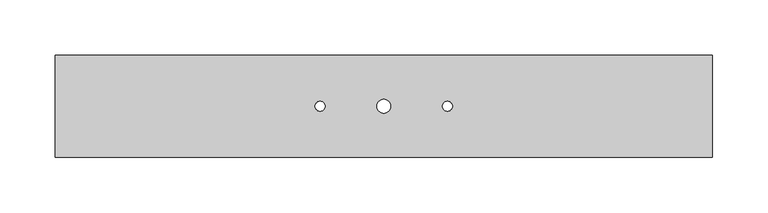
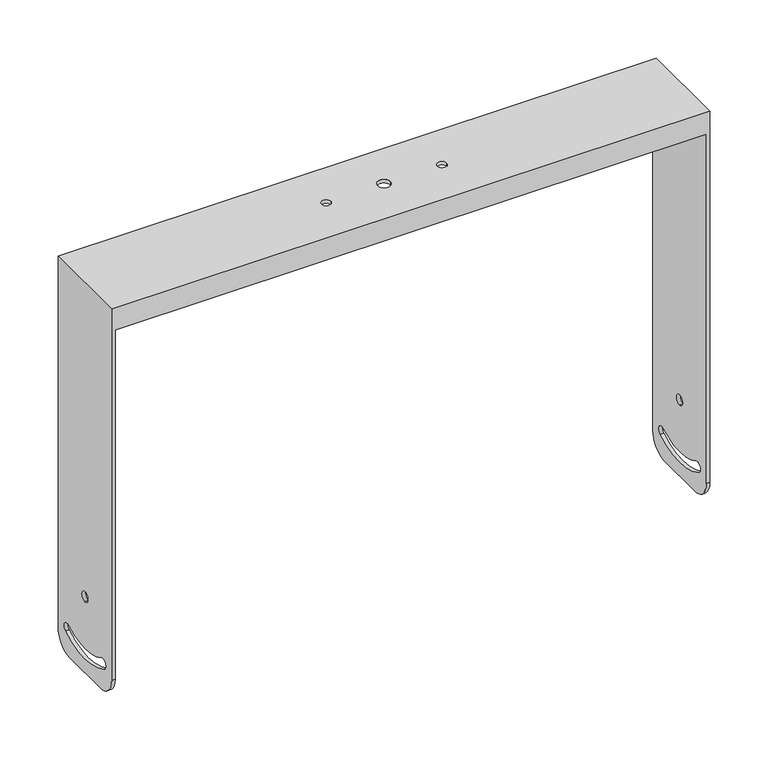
"""IFC4 building model written with IfcOpenShell, lengths in millimetres: proxy geometry, d&b xS-Series 18 l 27S Sub Horizontal Bracket : 18S l 27S Sub Horizontal Bracket."""

import ifcopenshell
import ifcopenshell.guid

model = None  # the IFC model being written
_history = None  # IfcOwnerHistory: only IFC2X3 demands one
_inside = {}  # id of a spatial element -> (the spatial element, [elements in it])
_under = {}  # id of a project, library or spatial element -> (it, [spatial elements below it])
_declared = {}  # id of a project -> (the project, [libraries it declares])
_typed = {}  # id of a type object -> (the type object, [elements of that type])
_made_of = {}  # id of a material, layer set ... -> (it, [elements and type objects made of it])


def new_model(schema):
    """Start an empty IFC model of exactly this schema.

    Asked for "IFC4X3", IfcOpenShell would pick the latest addendum, in which some entities
    have other attributes; the version numbers below select the first issue.
    IFC2X3 requires an IfcOwnerHistory on every rooted entity: one is made here for all.
    """
    global model, _history
    if schema == "IFC4X3":
        model = ifcopenshell.file(schema_version=(4, 3, 0, 0))
    else:
        model = ifcopenshell.file(schema=schema)
    _inside.clear()
    _under.clear()
    _declared.clear()
    _typed.clear()
    _made_of.clear()
    _history = None
    if model.schema == "IFC2X3":
        org = make("IfcOrganization", Name="unknown")
        user = make(
            "IfcPersonAndOrganization",
            ThePerson=make("IfcPerson", FamilyName="unknown"),
            TheOrganization=org,
        )
        app = make(
            "IfcApplication",
            ApplicationDeveloper=org,
            Version="unknown",
            ApplicationFullName="unknown",
            ApplicationIdentifier="unknown",
        )
        _history = make(
            "IfcOwnerHistory",
            OwningUser=user,
            OwningApplication=app,
            ChangeAction="ADDED",
            CreationDate=0,
        )
    return model


def make(cls, **values):
    """One entity of the class cls with the attributes given. An attribute that is None is left unset."""
    return model.create_entity(
        cls, **{name: value for name, value in values.items() if value is not None}
    )


def rooted(cls, **values):
    """An entity with a GlobalId (a new one), such as an element, a storey or a relation."""
    return make(cls, GlobalId=ifcopenshell.guid.new(), OwnerHistory=_history, **values)


def si_unit(unit_type, name, prefix=None):
    """IfcSIUnit, for example si_unit("LENGTHUNIT", "METRE", prefix="MILLI")."""
    return make("IfcSIUnit", UnitType=unit_type, Prefix=prefix, Name=name)


def assignment(units):
    """IfcUnitAssignment: the units of a project."""
    return None if units is None else make("IfcUnitAssignment", Units=units)


def point(xyz):
    """IfcCartesianPoint."""
    return None if xyz is None else make("IfcCartesianPoint", Coordinates=xyz)


def direction(xyz):
    """IfcDirection."""
    return None if xyz is None else make("IfcDirection", DirectionRatios=xyz)


def frame(location, z_axis=None, x_axis=None):
    """IfcAxis2Placement3D, a coordinate frame: its origin and axes. An axis left out is left unset."""
    return make(
        "IfcAxis2Placement3D",
        Location=point(location),
        Axis=direction(z_axis),
        RefDirection=direction(x_axis),
    )


def origin():
    """The frame at (0, 0, 0) with its axes left unset."""
    return frame((0.0, 0.0, 0.0))


def place(relative_to, where):
    """IfcLocalPlacement: puts the frame where relative to a parent placement (None: the world)."""
    return make(
        "IfcLocalPlacement", PlacementRelTo=relative_to, RelativePlacement=where
    )


def context(
    kind, dimensions, precision=None, world=None, true_north=None, identifier=None
):
    """IfcGeometricRepresentationContext, for example the 3D "Model" context."""
    return make(
        "IfcGeometricRepresentationContext",
        ContextIdentifier=identifier,
        ContextType=kind,
        CoordinateSpaceDimension=dimensions,
        Precision=precision,
        WorldCoordinateSystem=world,
        TrueNorth=true_north,
    )


def project(units=None, contexts=None):
    """IfcProject with its units and contexts."""
    return rooted(
        "IfcProject",
        Name="project",
        RepresentationContexts=contexts,
        UnitsInContext=assignment(units),
    )


def spatial(cls, under=None, at=None, **own):
    """A site, building, storey or space (cls), placed at a placement, below another one or the project."""
    s = rooted(cls, ObjectPlacement=at, **own)
    if under is not None:
        _under.setdefault(under.id(), (under, []))[1].append(s)
    return s


def polyline(points):
    """IfcPolyline through the points."""
    return make("IfcPolyline", Points=[point(p) for p in points])


def circle_curve(where, radius):
    """IfcCircle in the frame where."""
    return make("IfcCircle", Position=where, Radius=radius)


def shape(context_of_items, identifier, shape_type, items):
    """IfcShapeRepresentation: the items that make up one representation, for example the "Body"."""
    return make(
        "IfcShapeRepresentation",
        ContextOfItems=context_of_items,
        RepresentationIdentifier=identifier,
        RepresentationType=shape_type,
        Items=items,
    )


def source(mapping_origin, context_of_items, identifier, shape_type, items):
    """IfcRepresentationMap: a shape defined once, which mapped items show again and again."""
    return make(
        "IfcRepresentationMap",
        MappingOrigin=mapping_origin,
        MappedRepresentation=shape(context_of_items, identifier, shape_type, items),
    )


def transform(
    local_origin,
    x_axis=None,
    y_axis=None,
    z_axis=None,
    scale=None,
    scale2=None,
    scale3=None,
    uniform=True,
):
    """IfcCartesianTransformationOperator3D, or its non-uniform kind. x_axis, y_axis, z_axis: its Axis1, 2, 3."""
    if uniform:
        return make(
            "IfcCartesianTransformationOperator3D",
            Axis1=direction(x_axis),
            Axis2=direction(y_axis),
            LocalOrigin=point(local_origin),
            Scale=scale,
            Axis3=direction(z_axis),
        )
    return make(
        "IfcCartesianTransformationOperator3DnonUniform",
        Axis1=direction(x_axis),
        Axis2=direction(y_axis),
        LocalOrigin=point(local_origin),
        Scale=scale,
        Axis3=direction(z_axis),
        Scale2=scale2,
        Scale3=scale3,
    )


def mapped(mapping_source, mapping_target):
    """IfcMappedItem: shows the shape of a source again, moved by a transform."""
    return make(
        "IfcMappedItem", MappingSource=mapping_source, MappingTarget=mapping_target
    )


def made_of(thing, what):
    """Note that an element or type object is made of a material, layer set ...; save() writes the relation."""
    if what is not None:
        _made_of.setdefault(what.id(), (what, []))[1].append(thing)
    return thing


def element(
    cls,
    number,
    at=None,
    inside=None,
    cuts=None,
    type_object=None,
    material=None,
    context=None,
    identifier="Body",
    shape_type=None,
    held_by="IfcProductDefinitionShape",
    body=None,
    shapes=None,
    **own,
):
    """One element of the class cls, such as IfcWall. Its Tag is "e" and its number.

    at: its placement. inside: the storey or other place that contains it. cuts: it is an
    opening in that element (IfcRelVoidsElement). A single representation is given by context,
    identifier, shape_type and body (its items); several are given by shapes. held_by: the class
    of the entity that holds the representations. save() writes the other relations.
    """
    e = rooted(cls, Tag="e%d" % number, ObjectPlacement=at, **own)
    if body is not None:
        shapes = [shape(context, identifier, shape_type, body)]
    if shapes is not None:
        e.Representation = make(held_by, Representations=shapes)
    if inside is not None:
        _inside.setdefault(inside.id(), (inside, []))[1].append(e)
    if cuts is not None:
        rooted(
            "IfcRelVoidsElement", RelatingBuildingElement=cuts, RelatedOpeningElement=e
        )
    if type_object is not None:
        _typed.setdefault(type_object.id(), (type_object, []))[1].append(e)
    return made_of(e, material)


def aggregate(whole, parts):
    """IfcRelAggregates: a whole, such as a stair, and the parts it consists of."""
    return rooted("IfcRelAggregates", RelatingObject=whole, RelatedObjects=parts)


def save(model, path):
    """Write the relations noted so far, then the file.

    IfcRelAggregates (storeys below a building ...), IfcRelContainedInSpatialStructure (elements
    in a storey), IfcRelDefinesByType, IfcRelAssociatesMaterial and IfcRelDeclares: one each for
    every whole, place, type object, material and project.
    """
    for whole, parts in _under.values():
        aggregate(whole, parts)
    for where, things in _inside.values():
        rooted(
            "IfcRelContainedInSpatialStructure",
            RelatedElements=things,
            RelatingStructure=where,
        )
    for kind, things in _typed.values():
        rooted("IfcRelDefinesByType", RelatedObjects=things, RelatingType=kind)
    for what, things in _made_of.values():
        rooted("IfcRelAssociatesMaterial", RelatedObjects=things, RelatingMaterial=what)
    for by, libraries in _declared.values():
        rooted("IfcRelDeclares", RelatingContext=by, RelatedDefinitions=libraries)
    model.write(path)


def plane_surface(at):
    """IfcPlane: the flat surface through the origin of the frame at, square to its z axis."""
    return make("IfcPlane", Position=at)


def cylinder_surface(at, radius):
    """IfcCylindricalSurface: all points at the distance radius from the z axis of the frame at."""
    return make("IfcCylindricalSurface", Position=at, Radius=radius)


def revolved_surface(curve, axis_point, axis_direction):
    """IfcSurfaceOfRevolution: the curve turned about the line through axis_point along axis_direction."""
    return make(
        "IfcSurfaceOfRevolution",
        SweptCurve=make("IfcArbitraryOpenProfileDef", ProfileType="CURVE", Curve=curve),
        AxisPosition=make("IfcAxis1Placement", Location=point(axis_point), Axis=direction(axis_direction)),
    )


def advanced_brep(points, edges, surfaces, faces):
    """IfcAdvancedBrep: a solid bounded by faces that lie on surfaces and meet in shared edges.

    An edge is (start, end): straight between two places in points (the first is 0);
    or (start, end, curve); or (start, end, curve, False) where it runs against its curve.
    A face is (place in surfaces, loops), or (place, loops, False) where it looks against
    its surface's normal. A loop lists edges by number (the first is 1), with a minus sign
    where the edge is run from its end to its start. The first loop is the outer one.
    """
    corners = [point(p) for p in points]
    vertices = [make("IfcVertexPoint", VertexGeometry=c) for c in corners]
    made = []
    for start, end, *more in edges:
        made.append(
            make(
                "IfcEdgeCurve",
                EdgeStart=vertices[start],
                EdgeEnd=vertices[end],
                EdgeGeometry=more[0] if more else make("IfcPolyline", Points=[corners[start], corners[end]]),
                SameSense=more[1] if len(more) > 1 else True,
            )
        )
    hull = []
    for where, loops, *sense in faces:
        bounds = []
        for j, loop in enumerate(loops):
            ring = [make("IfcOrientedEdge", EdgeElement=made[abs(k) - 1], Orientation=k > 0) for k in loop]
            bounds.append(
                make(
                    "IfcFaceOuterBound" if j == 0 else "IfcFaceBound",
                    Bound=make("IfcEdgeLoop", EdgeList=ring),
                    Orientation=True,
                )
            )
        hull.append(make("IfcAdvancedFace", Bounds=bounds, FaceSurface=surfaces[where], SameSense=sense[0] if sense else True))
    return make("IfcAdvancedBrep", Outer=make("IfcClosedShell", CfsFaces=hull))


def communication_devices_358104d0(model_context):
    return source(origin(), model_context, "Body", "AdvancedBrep", [
        advanced_brep(
        [(-293.5, -48.1597025, -75.0665911), (-293.5, -28.1597025, -55.0665911), (-293.5, -28.1597025, 311.9334089), (-293.5, -31.1597025, 311.9334089), (-293.5, -31.1597025, 331.4334089), (-293.5, -117.1597025, 331.4334089), (-293.5, -117.1597025, 311.9334089), (-293.5, -120.1597025, 311.9334089), (-293.5, -120.1597025, -55.0665911), (-293.5, -100.1597025, -75.0665911), (-293.5, -74.1597025, -0.2665911), (-293.5, -74.1597025, 10.1334089), (-293.5, -101.9713212, -42.2167829), (-293.5, -46.3480839, -42.2167829), (-293.5, -41.0292815, -51.1538037), (-293.5, -107.2901235, -51.1538037), (-297.0, -48.1597025, -75.0665911), (-297.0, -100.1597025, -75.0665911), (-297.0, -120.1597025, -55.0665911), (-297.0, -120.1597025, 334.9334089), (-297.0, -28.1597025, 334.9334089), (-297.0, -28.1597025, -55.0665911), (-297.0, -74.1597025, -0.2665911), (-297.0, -74.1597025, 10.1334089), (-297.0, -101.9713212, -42.2167829), (-297.0, -107.2901235, -51.1538037), (-297.0, -41.0292815, -51.1538037), (-297.0, -46.3480839, -42.2167829), (297.0, -28.1597025, 334.9334089), (297.0, -28.1597025, -55.0665911), (293.5, -28.1597025, -55.0665911), (293.5, -28.1597025, 311.9334089), (293.5, -120.1597025, 311.9334089), (293.5, -120.1597025, -55.0665911), (297.0, -120.1597025, -55.0665911), (297.0, -120.1597025, 334.9334089), (293.5, -31.1597025, 311.9334089), (293.5, -31.1597025, 331.4334089), (293.5, -117.1597025, 311.9334089), (293.5, -117.1597025, 331.4334089), (293.5, -48.1597025, -75.0665911), (293.5, -100.1597025, -75.0665911), (293.5, -74.1597025, -0.2665911), (293.5, -74.1597025, 10.1334089), (293.5, -101.9713212, -42.2167829), (293.5, -107.2901235, -51.1538037), (293.5, -41.0292815, -51.1538037), (293.5, -46.3480839, -42.2167829), (297.0, -48.1597025, -75.0665911), (297.0, -100.1597025, -75.0665911), (297.0, -74.1597025, 10.1334089), (297.0, -74.1597025, -0.2665911), (297.0, -46.3480839, -42.2167829), (297.0, -101.9713212, -42.2167829), (297.0, -41.0292815, -51.1538037), (297.0, -107.2901235, -51.1538037), (-6.25, -74.1597025, 334.9334089), (6.25, -74.1597025, 334.9334089), (-62.0, -74.1597025, 334.9334089), (-53.0, -74.1597025, 334.9334089), (53.0, -74.1597025, 334.9334089), (62.0, -74.1597025, 334.9334089), (-6.25, -74.1597025, 331.4334089), (6.25, -74.1597025, 331.4334089), (-62.0, -74.1597025, 331.4334089), (-53.0, -74.1597025, 331.4334089), (53.0, -74.1597025, 331.4334089), (62.0, -74.1597025, 331.4334089)],
        [
            (0, 1, circle_curve(frame((-293.5, -48.1597025, -55.0665911), z_axis=(1.0, 0.0, 0.0), x_axis=(0.0, 0.0, 1.0)), 20.0)),
            (1, 2),
            (2, 3),
            (3, 4),
            (4, 5),
            (5, 6),
            (6, 7),
            (7, 8),
            (8, 9, circle_curve(frame((-293.5, -100.1597025, -55.0665911), z_axis=(1.0, 0.0, 0.0), x_axis=(0.0, 0.0, 1.0)), 20.0)),
            (9, 0),
            (10, 11, circle_curve(frame((-293.5, -74.1597025, 4.9334089), z_axis=(-1.0, 0.0, 0.0), x_axis=(0.0, 0.0, 1.0)), 5.2)),
            (11, 10, circle_curve(frame((-293.5, -74.1597025, 4.9334089), z_axis=(-1.0, 0.0, 0.0), x_axis=(0.0, 0.0, 1.0)), 5.2)),
            (12, 13, circle_curve(frame((-293.5, -74.1597025, 4.5142293), z_axis=(1.0, 0.0, 0.0), x_axis=(0.0, 0.0, 1.0)), 54.3808204)),
            (13, 14, circle_curve(frame((-293.5, -43.6886827, -46.6852933), z_axis=(-1.0, 0.0, 0.0), x_axis=(0.0, 0.0, 1.0)), 5.2)),
            (14, 15, circle_curve(frame((-293.5, -74.1597025, 4.5142293), z_axis=(-1.0, 0.0, 0.0), x_axis=(0.0, 0.0, 1.0)), 64.7808204)),
            (15, 12, circle_curve(frame((-293.5, -104.6307223, -46.6852933), z_axis=(-1.0, 0.0, 0.0), x_axis=(0.0, 0.0, 1.0)), 5.2)),
            (16, 17),
            (17, 18, circle_curve(frame((-297.0, -100.1597025, -55.0665911), z_axis=(-1.0, 0.0, 0.0), x_axis=(0.0, 0.0, 1.0)), 20.0)),
            (18, 19),
            (19, 20),
            (20, 21),
            (21, 16, circle_curve(frame((-297.0, -48.1597025, -55.0665911), z_axis=(-1.0, 0.0, 0.0), x_axis=(0.0, 0.0, 1.0)), 20.0)),
            (22, 23, circle_curve(frame((-297.0, -74.1597025, 4.9334089), z_axis=(1.0, 0.0, 0.0), x_axis=(0.0, 0.0, 1.0)), 5.2)),
            (23, 22, circle_curve(frame((-297.0, -74.1597025, 4.9334089), z_axis=(1.0, 0.0, 0.0), x_axis=(0.0, 0.0, 1.0)), 5.2)),
            (24, 25, circle_curve(frame((-297.0, -104.6307223, -46.6852933), z_axis=(1.0, 0.0, 0.0), x_axis=(0.0, 0.0, 1.0)), 5.2)),
            (25, 26, circle_curve(frame((-297.0, -74.1597025, 4.5142293), z_axis=(1.0, 0.0, 0.0), x_axis=(0.0, 0.0, 1.0)), 64.7808204)),
            (26, 27, circle_curve(frame((-297.0, -43.6886827, -46.6852933), z_axis=(1.0, 0.0, 0.0), x_axis=(0.0, 0.0, 1.0)), 5.2)),
            (27, 24, circle_curve(frame((-297.0, -74.1597025, 4.5142293), z_axis=(-1.0, 0.0, 0.0), x_axis=(0.0, 0.0, 1.0)), 54.3808204)),
            (0, 16),
            (21, 1),
            (20, 28),
            (28, 29),
            (29, 30),
            (30, 31),
            (31, 2),
            (18, 8),
            (7, 32),
            (32, 33),
            (33, 34),
            (34, 35),
            (35, 19),
            (17, 9),
            (10, 22),
            (23, 11),
            (12, 24),
            (27, 13),
            (26, 14),
            (25, 15),
            (3, 36),
            (36, 37),
            (37, 4),
            (31, 36),
            (6, 38),
            (38, 32),
            (5, 39),
            (39, 38),
            (40, 41),
            (41, 33, circle_curve(frame((293.5, -100.1597025, -55.0665911), z_axis=(-1.0, 0.0, 0.0), x_axis=(0.0, 0.0, 1.0)), 20.0)),
            (39, 37),
            (30, 40, circle_curve(frame((293.5, -48.1597025, -55.0665911), z_axis=(-1.0, 0.0, 0.0), x_axis=(0.0, 0.0, 1.0)), 20.0)),
            (42, 43, circle_curve(frame((293.5, -74.1597025, 4.9334089), z_axis=(1.0, 0.0, 0.0), x_axis=(0.0, 0.0, 1.0)), 5.2)),
            (43, 42, circle_curve(frame((293.5, -74.1597025, 4.9334089), z_axis=(1.0, 0.0, 0.0), x_axis=(0.0, 0.0, 1.0)), 5.2)),
            (44, 45, circle_curve(frame((293.5, -104.6307223, -46.6852933), z_axis=(1.0, 0.0, 0.0), x_axis=(0.0, 0.0, 1.0)), 5.2)),
            (45, 46, circle_curve(frame((293.5, -74.1597025, 4.5142293), z_axis=(1.0, 0.0, 0.0), x_axis=(0.0, 0.0, 1.0)), 64.7808204)),
            (46, 47, circle_curve(frame((293.5, -43.6886827, -46.6852933), z_axis=(1.0, 0.0, 0.0), x_axis=(0.0, 0.0, 1.0)), 5.2)),
            (47, 44, circle_curve(frame((293.5, -74.1597025, 4.5142293), z_axis=(-1.0, 0.0, 0.0), x_axis=(0.0, 0.0, 1.0)), 54.3808204)),
            (29, 48, circle_curve(frame((297.0, -48.1597025, -55.0665911), z_axis=(-1.0, 0.0, 0.0), x_axis=(0.0, 0.0, 1.0)), 20.0)),
            (48, 40),
            (49, 34, circle_curve(frame((297.0, -100.1597025, -55.0665911), z_axis=(-1.0, 0.0, 0.0), x_axis=(0.0, 0.0, 1.0)), 20.0)),
            (41, 49),
            (48, 49),
            (50, 51, circle_curve(frame((297.0, -74.1597025, 4.9334089), z_axis=(1.0, 0.0, 0.0), x_axis=(0.0, 0.0, 1.0)), 5.2)),
            (51, 42),
            (43, 50),
            (51, 50, circle_curve(frame((297.0, -74.1597025, 4.9334089), z_axis=(1.0, 0.0, 0.0), x_axis=(0.0, 0.0, 1.0)), 5.2)),
            (52, 53, circle_curve(frame((297.0, -74.1597025, 4.5142293), z_axis=(-1.0, 0.0, 0.0), x_axis=(0.0, 0.0, 1.0)), 54.3808204)),
            (53, 44),
            (47, 52),
            (54, 52, circle_curve(frame((297.0, -43.6886827, -46.6852933), z_axis=(1.0, 0.0, 0.0), x_axis=(0.0, 0.0, 1.0)), 5.2)),
            (46, 54),
            (55, 54, circle_curve(frame((297.0, -74.1597025, 4.5142293), z_axis=(1.0, 0.0, 0.0), x_axis=(0.0, 0.0, 1.0)), 64.7808204)),
            (45, 55),
            (53, 55, circle_curve(frame((297.0, -104.6307223, -46.6852933), z_axis=(1.0, 0.0, 0.0), x_axis=(0.0, 0.0, 1.0)), 5.2)),
            (35, 28),
            (56, 57, circle_curve(frame((0.0, -74.1597025, 334.9334089), z_axis=(0.0, 0.0, -1.0), x_axis=(1.0, 0.0, 0.0)), 6.25)),
            (57, 56, circle_curve(frame((0.0, -74.1597025, 334.9334089), z_axis=(0.0, 0.0, -1.0), x_axis=(1.0, 0.0, 0.0)), 6.25)),
            (58, 59, circle_curve(frame((-57.5, -74.1597025, 334.9334089), z_axis=(0.0, 0.0, -1.0), x_axis=(1.0, 0.0, 0.0)), 4.5)),
            (59, 58, circle_curve(frame((-57.5, -74.1597025, 334.9334089), z_axis=(0.0, 0.0, -1.0), x_axis=(1.0, 0.0, 0.0)), 4.5)),
            (60, 61, circle_curve(frame((57.5, -74.1597025, 334.9334089), z_axis=(0.0, 0.0, -1.0), x_axis=(1.0, 0.0, 0.0)), 4.5)),
            (61, 60, circle_curve(frame((57.5, -74.1597025, 334.9334089), z_axis=(0.0, 0.0, -1.0), x_axis=(1.0, 0.0, 0.0)), 4.5)),
            (62, 63, circle_curve(frame((0.0, -74.1597025, 331.4334089), z_axis=(0.0, 0.0, 1.0), x_axis=(1.0, 0.0, 0.0)), 6.25)),
            (63, 62, circle_curve(frame((0.0, -74.1597025, 331.4334089), z_axis=(0.0, 0.0, 1.0), x_axis=(1.0, 0.0, 0.0)), 6.25)),
            (64, 65, circle_curve(frame((-57.5, -74.1597025, 331.4334089), z_axis=(0.0, 0.0, 1.0), x_axis=(1.0, 0.0, 0.0)), 4.5)),
            (65, 64, circle_curve(frame((-57.5, -74.1597025, 331.4334089), z_axis=(0.0, 0.0, 1.0), x_axis=(1.0, 0.0, 0.0)), 4.5)),
            (66, 67, circle_curve(frame((57.5, -74.1597025, 331.4334089), z_axis=(0.0, 0.0, 1.0), x_axis=(1.0, 0.0, 0.0)), 4.5)),
            (67, 66, circle_curve(frame((57.5, -74.1597025, 331.4334089), z_axis=(0.0, 0.0, 1.0), x_axis=(1.0, 0.0, 0.0)), 4.5)),
            (56, 62),
            (63, 57),
            (58, 64),
            (65, 59),
            (60, 66),
            (67, 61),
        ],
        [
            plane_surface(frame((-293.5, -48.1597025, -35.0665911), z_axis=(1.0, 0.0, 0.0), x_axis=(0.0, -1.0, 0.0))),
            plane_surface(frame((-297.0, -48.1597025, -35.0665911), z_axis=(-1.0, 0.0, 0.0), x_axis=(0.0, 1.0, 0.0))),
            cylinder_surface(frame((-297.0, -48.1597025, -55.0665911), z_axis=(1.0, 0.0, 0.0), x_axis=(0.0, 0.0, 1.0)), 20.0),
            plane_surface(frame((-293.5, -28.1597025, -55.0665911), z_axis=(0.0, 1.0, 0.0), x_axis=(-1.0, 0.0, 0.0))),
            plane_surface(frame((-293.5, -120.1597025, 331.4334089), z_axis=(0.0, -1.0, 0.0), x_axis=(-1.0, 0.0, 0.0))),
            cylinder_surface(frame((-297.0, -100.1597025, -55.0665911), z_axis=(1.0, 0.0, 0.0), x_axis=(0.0, 0.0, 1.0)), 20.0),
            plane_surface(frame((-293.5, -100.1597025, -75.0665911), z_axis=(0.0, 0.0, -1.0), x_axis=(-1.0, 0.0, 0.0))),
            revolved_surface(polyline([(-297.0, -74.1597025, 10.1334089), (-293.5, -74.1597025, 10.1334089)]), (0.0, -74.1597025, 4.9334089), (-1.0, 0.0, 0.0)),
            cylinder_surface(frame((0.0, -74.1597025, 4.5142293), z_axis=(1.0, 0.0, 0.0), x_axis=(0.0, 0.0, 1.0)), 54.3808204),
            revolved_surface(polyline([(-297.0, -43.6886827, -41.485293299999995), (-293.5, -43.6886827, -41.485293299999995)]), (0.0, -43.6886827, -46.6852933), (-1.0, 0.0, 0.0)),
            revolved_surface(polyline([(-297.0, -74.1597025, 69.29504969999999), (-293.5, -74.1597025, 69.29504969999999)]), (0.0, -74.1597025, 4.5142293), (-1.0, 0.0, 0.0)),
            revolved_surface(polyline([(-297.0, -104.6307223, -41.485293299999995), (-293.5, -104.6307223, -41.485293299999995)]), (0.0, -104.6307223, -46.6852933), (-1.0, 0.0, 0.0)),
            plane_surface(frame((293.5, -31.1597025, 331.4334089), z_axis=(0.0, -1.0, 0.0), x_axis=(-1.0, 0.0, 0.0))),
            plane_surface(frame((293.5, -31.1597025, 311.9334089), z_axis=(0.0, 0.0, -1.0), x_axis=(-1.0, 0.0, 0.0))),
            plane_surface(frame((293.5, -120.1597025, 311.9334089), z_axis=(0.0, 0.0, -1.0), x_axis=(-1.0, 0.0, 0.0))),
            plane_surface(frame((293.5, -117.1597025, 311.9334089), z_axis=(0.0, 1.0, 0.0), x_axis=(-1.0, 0.0, 0.0))),
            plane_surface(frame((293.5, -48.1597025, -35.0665911), z_axis=(-1.0, 0.0, 0.0), x_axis=(0.0, 1.0, 0.0))),
            cylinder_surface(frame((293.5, -48.1597025, -55.0665911), z_axis=(1.0, 0.0, 0.0), x_axis=(0.0, 0.0, 1.0)), 20.0),
            cylinder_surface(frame((293.5, -100.1597025, -55.0665911), z_axis=(1.0, 0.0, 0.0), x_axis=(0.0, 0.0, 1.0)), 20.0),
            plane_surface(frame((297.0, -100.1597025, -75.0665911), z_axis=(0.0, 0.0, -1.0), x_axis=(-1.0, 0.0, 0.0))),
            revolved_surface(polyline([(293.5, -74.1597025, 10.1334089), (297.0, -74.1597025, 10.1334089)]), (0.0, -74.1597025, 4.9334089), (-1.0, 0.0, 0.0)),
            revolved_surface(polyline([(293.5, -43.6886827, -41.485293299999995), (297.0, -43.6886827, -41.485293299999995)]), (0.0, -43.6886827, -46.6852933), (-1.0, 0.0, 0.0)),
            revolved_surface(polyline([(293.5, -74.1597025, 69.29504969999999), (297.0, -74.1597025, 69.29504969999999)]), (0.0, -74.1597025, 4.5142293), (-1.0, 0.0, 0.0)),
            revolved_surface(polyline([(293.5, -104.6307223, -41.485293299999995), (297.0, -104.6307223, -41.485293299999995)]), (0.0, -104.6307223, -46.6852933), (-1.0, 0.0, 0.0)),
            plane_surface(frame((297.0, -28.1597025, 334.9334089), z_axis=(0.0, 0.0, 1.0), x_axis=(-1.0, 0.0, 0.0))),
            plane_surface(frame((297.0, -48.1597025, -35.0665911), z_axis=(1.0, 0.0, 0.0), x_axis=(0.0, -1.0, 0.0))),
            plane_surface(frame((-297.0, -28.1597025, 331.4334089), z_axis=(0.0, 0.0, -1.0), x_axis=(1.0, 0.0, 0.0))),
            revolved_surface(polyline([(6.25, -74.1597025, 331.4334089), (6.25, -74.1597025, 334.9334089)]), (0.0, -74.1597025, 59.9334089), (0.0, 0.0, -1.0)),
            revolved_surface(polyline([(-53.0, -74.1597025, 331.4334089), (-53.0, -74.1597025, 334.9334089)]), (-57.5, -74.1597025, 59.9334089), (0.0, 0.0, -1.0)),
            revolved_surface(polyline([(62.0, -74.1597025, 331.4334089), (62.0, -74.1597025, 334.9334089)]), (57.5, -74.1597025, 59.9334089), (0.0, 0.0, -1.0)),
        ],
        [
            (0, [[1, 2, 3, 4, 5, 6, 7, 8, 9, 10], [11, 12], [13, 14, 15, 16]]),
            (1, [[17, 18, 19, 20, 21, 22], [23, 24], [25, 26, 27, 28]]),
            (2, [[-1, 29, -22, 30]]),
            (3, [[-21, 31, 32, 33, 34, 35, -2, -30]]),
            (4, [[-19, 36, -8, 37, 38, 39, 40, 41]]),
            (5, [[-9, -36, -18, 42]]),
            (6, [[-10, -42, -17, -29]]),
            (7, [[-11, 43, -24, 44]]),
            (7, [[-12, -44, -23, -43]]),
            (8, [[-13, 45, -28, 46]]),
            (9, [[-14, -46, -27, 47]]),
            (10, [[-15, -47, -26, 48]]),
            (11, [[-16, -48, -25, -45]]),
            (12, [[49, 50, 51, -4]]),
            (13, [[-49, -3, -35, 52]]),
            (14, [[-37, -7, 53, 54]]),
            (15, [[-53, -6, 55, 56]]),
            (16, [[57, 58, -38, -54, -56, 59, -50, -52, -34, 60], [61, 62], [63, 64, 65, 66]]),
            (17, [[67, 68, -60, -33]]),
            (18, [[69, -39, -58, 70]]),
            (19, [[71, -70, -57, -68]]),
            (20, [[72, 73, -62, 74]]),
            (20, [[75, -74, -61, -73]]),
            (8, [[76, 77, -66, 78]]),
            (21, [[79, -78, -65, 80]]),
            (22, [[81, -80, -64, 82]]),
            (23, [[83, -82, -63, -77]]),
            (24, [[-41, 84, -31, -20], [85, 86], [87, 88], [89, 90]]),
            (25, [[-67, -32, -84, -40, -69, -71], [-72, -75], [-76, -79, -81, -83]]),
            (26, [[-5, -51, -59, -55], [91, 92], [93, 94], [95, 96]]),
            (27, [[-85, 97, -92, 98]]),
            (27, [[-86, -98, -91, -97]]),
            (28, [[-87, 99, -94, 100]]),
            (28, [[-88, -100, -93, -99]]),
            (29, [[-89, 101, -96, 102]]),
            (29, [[-90, -102, -95, -101]]),
        ],
    ),
    ])


if __name__ == "__main__":
    model = new_model("IFC4")
    model_context = context("Model", 3, world=origin())
    ifc_project = project(units=[si_unit("LENGTHUNIT", "METRE", prefix="MILLI")], contexts=[model_context])
    site = spatial("IfcSite", under=ifc_project)
    building = spatial("IfcBuilding", under=site)
    placement = place(None, origin())
    communication_devices_shape = communication_devices_358104d0(model_context)
    element("IfcBuildingElementProxy", 1, Name="d&b xS-Series 18 l 27S Sub Horizontal Bracket : 18S l 27S Sub Horizontal Bracket", ObjectType="d&b xS-Series 18 l 27S Sub Horizontal Bracket : 18S l 27S Sub Horizontal Bracket", at=placement, inside=building, context=model_context, shape_type="MappedRepresentation", body=[
        mapped(communication_devices_shape, transform((0.0, 0.0, 0.0), x_axis=(1.0, 0.0, 0.0), y_axis=(0.0, 1.0, 0.0), z_axis=(0.0, 0.0, 1.0))),
    ])
    save(model, "model.ifc")
